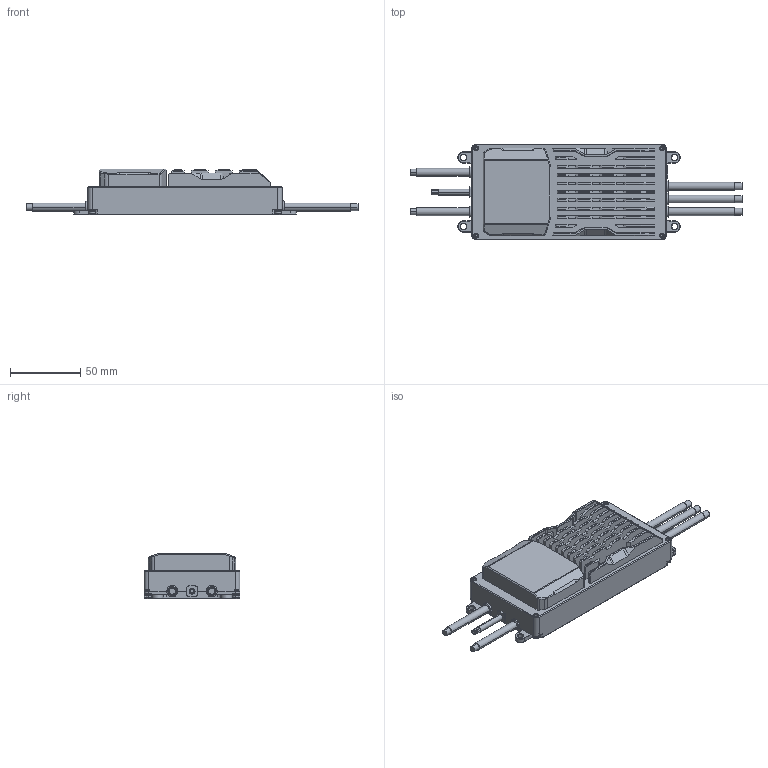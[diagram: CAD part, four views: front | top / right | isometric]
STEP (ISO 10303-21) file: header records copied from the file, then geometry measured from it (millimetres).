
FILE_DESCRIPTION((''),'2;1');
FILE_NAME('MK1','2024-11-25T14:31:08',('221126'),(''),'CREO PARAMETRIC BY PTC INC, 2021284','CREO PARAMETRIC BY PTC INC, 2021284','');
FILE_SCHEMA(('AUTOMOTIVE_DESIGN { 1 0 10303 214 1 1 1 1 }'));
Products named in the file (1): MK1
Bounding box: 235.9 x 68 x 32.5 mm (x, y, z)
Volume: 81652.2 mm3; surface area: 90924.2 mm2
Topology: 1 solids, 1 shells, 3515 faces, 9037 edges, 5817 vertices
Faces by surface type: plane 2468, cylinder 647, cone 290, bspline 102, sphere 8
Entity records: 153673 total; most frequent: CARTESIAN_POINT 39902, ORIENTED_EDGE 18074, DIRECTION 16827, PRESENTATION_STYLE_ASSIGNMENT 9146, STYLED_ITEM 9038, CURVE_STYLE 9037, EDGE_CURVE 9037, VECTOR 6729
